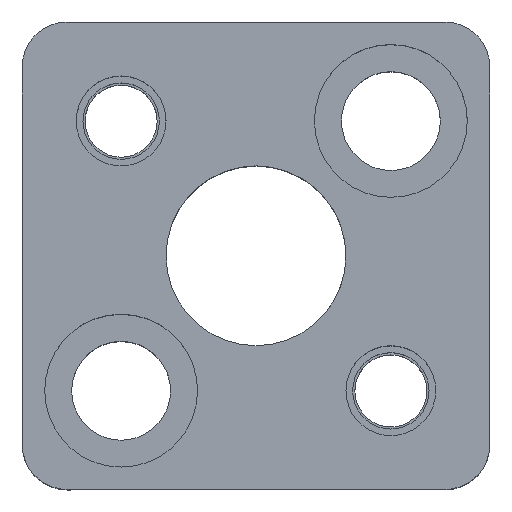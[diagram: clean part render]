
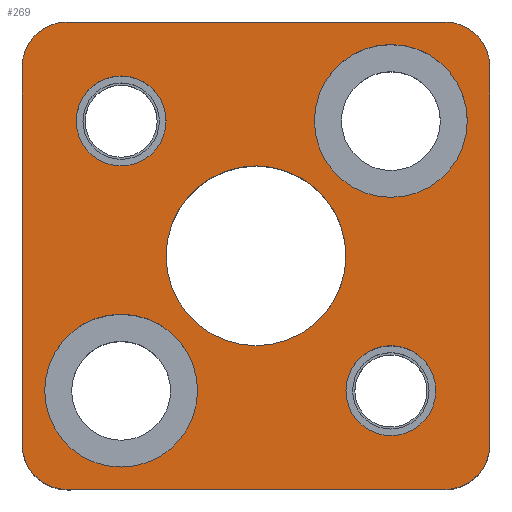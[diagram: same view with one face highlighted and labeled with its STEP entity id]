
A CAD part, top view. The second image highlights one B-rep face of the part: STEP entity #269.
In plain terms, the highlighted planar face has unit normal (0, 0, 1).
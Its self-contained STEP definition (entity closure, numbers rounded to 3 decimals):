
#111=FACE_BOUND('',#400,.T.);
#112=FACE_BOUND('',#401,.T.);
#113=FACE_BOUND('',#402,.T.);
#114=FACE_BOUND('',#403,.T.);
#115=FACE_BOUND('',#404,.T.);
#116=FACE_BOUND('',#405,.T.);
#162=CIRCLE('',#1027,5.);
#164=CIRCLE('',#1031,5.);
#166=CIRCLE('',#1035,5.);
#168=CIRCLE('',#1039,5.);
#181=CIRCLE('',#1065,8.5);
#183=CIRCLE('',#1068,8.5);
#185=CIRCLE('',#1072,8.5);
#187=CIRCLE('',#1075,8.5);
#211=CIRCLE('',#1118,5.);
#212=CIRCLE('',#1119,5.);
#213=CIRCLE('',#1120,5.);
#214=CIRCLE('',#1121,5.);
#215=CIRCLE('',#1122,10.);
#216=CIRCLE('',#1123,10.);
#269=ADVANCED_FACE('',(#111,#112,#113,#114,#115,#116),#297,.T.);
#297=PLANE('',#1124);
#400=EDGE_LOOP('',(#613,#614,#615,#616,#617,#618,#619,#620));
#401=EDGE_LOOP('',(#621,#622));
#402=EDGE_LOOP('',(#623,#624));
#403=EDGE_LOOP('',(#625,#626));
#404=EDGE_LOOP('',(#627,#628));
#405=EDGE_LOOP('',(#629,#630));
#613=ORIENTED_EDGE('',*,*,#785,.T.);
#614=ORIENTED_EDGE('',*,*,#782,.T.);
#615=ORIENTED_EDGE('',*,*,#779,.T.);
#616=ORIENTED_EDGE('',*,*,#776,.T.);
#617=ORIENTED_EDGE('',*,*,#773,.T.);
#618=ORIENTED_EDGE('',*,*,#770,.T.);
#619=ORIENTED_EDGE('',*,*,#791,.T.);
#620=ORIENTED_EDGE('',*,*,#788,.T.);
#621=ORIENTED_EDGE('',*,*,#877,.F.);
#622=ORIENTED_EDGE('',*,*,#878,.F.);
#623=ORIENTED_EDGE('',*,*,#879,.F.);
#624=ORIENTED_EDGE('',*,*,#880,.F.);
#625=ORIENTED_EDGE('',*,*,#830,.F.);
#626=ORIENTED_EDGE('',*,*,#826,.F.);
#627=ORIENTED_EDGE('',*,*,#824,.F.);
#628=ORIENTED_EDGE('',*,*,#820,.F.);
#629=ORIENTED_EDGE('',*,*,#881,.T.);
#630=ORIENTED_EDGE('',*,*,#882,.T.);
#685=VERTEX_POINT('',#1454);
#686=VERTEX_POINT('',#1456);
#688=VERTEX_POINT('',#1462);
#690=VERTEX_POINT('',#1468);
#692=VERTEX_POINT('',#1474);
#694=VERTEX_POINT('',#1480);
#696=VERTEX_POINT('',#1486);
#698=VERTEX_POINT('',#1492);
#715=VERTEX_POINT('',#1567);
#716=VERTEX_POINT('',#1568);
#719=VERTEX_POINT('',#1580);
#720=VERTEX_POINT('',#1581);
#754=VERTEX_POINT('',#1689);
#755=VERTEX_POINT('',#1690);
#756=VERTEX_POINT('',#1693);
#757=VERTEX_POINT('',#1694);
#758=VERTEX_POINT('',#1697);
#759=VERTEX_POINT('',#1698);
#770=EDGE_CURVE('',#686,#685,#902,.T.);
#773=EDGE_CURVE('',#688,#686,#162,.T.);
#776=EDGE_CURVE('',#690,#688,#906,.T.);
#779=EDGE_CURVE('',#692,#690,#164,.T.);
#782=EDGE_CURVE('',#694,#692,#910,.T.);
#785=EDGE_CURVE('',#696,#694,#166,.T.);
#788=EDGE_CURVE('',#698,#696,#914,.T.);
#791=EDGE_CURVE('',#685,#698,#168,.T.);
#820=EDGE_CURVE('',#715,#716,#181,.T.);
#824=EDGE_CURVE('',#716,#715,#183,.T.);
#826=EDGE_CURVE('',#719,#720,#185,.T.);
#830=EDGE_CURVE('',#720,#719,#187,.T.);
#877=EDGE_CURVE('',#754,#755,#211,.T.);
#878=EDGE_CURVE('',#755,#754,#212,.T.);
#879=EDGE_CURVE('',#756,#757,#213,.T.);
#880=EDGE_CURVE('',#757,#756,#214,.T.);
#881=EDGE_CURVE('',#758,#759,#215,.T.);
#882=EDGE_CURVE('',#759,#758,#216,.T.);
#902=LINE('',#1455,#964);
#906=LINE('',#1467,#968);
#910=LINE('',#1479,#972);
#914=LINE('',#1491,#976);
#964=VECTOR('',#1149,1.);
#968=VECTOR('',#1161,1.);
#972=VECTOR('',#1173,1.);
#976=VECTOR('',#1185,1.);
#1027=AXIS2_PLACEMENT_3D('',#1461,#1155,#1156);
#1031=AXIS2_PLACEMENT_3D('',#1473,#1167,#1168);
#1035=AXIS2_PLACEMENT_3D('',#1485,#1179,#1180);
#1039=AXIS2_PLACEMENT_3D('',#1496,#1191,#1192);
#1065=AXIS2_PLACEMENT_3D('',#1566,#1255,#1256);
#1068=AXIS2_PLACEMENT_3D('',#1575,#1263,#1264);
#1072=AXIS2_PLACEMENT_3D('',#1579,#1271,#1272);
#1075=AXIS2_PLACEMENT_3D('',#1588,#1279,#1280);
#1118=AXIS2_PLACEMENT_3D('',#1688,#1387,#1388);
#1119=AXIS2_PLACEMENT_3D('',#1691,#1389,#1390);
#1120=AXIS2_PLACEMENT_3D('',#1692,#1391,#1392);
#1121=AXIS2_PLACEMENT_3D('',#1695,#1393,#1394);
#1122=AXIS2_PLACEMENT_3D('',#1696,#1395,#1396);
#1123=AXIS2_PLACEMENT_3D('',#1699,#1397,#1398);
#1124=AXIS2_PLACEMENT_3D('',#1700,#1399,#1400);
#1149=DIRECTION('',(0.,-1.,0.));
#1155=DIRECTION('',(0.,0.,1.));
#1156=DIRECTION('',(0.707,-0.707,0.));
#1161=DIRECTION('',(-1.,0.,0.));
#1167=DIRECTION('',(0.,0.,1.));
#1168=DIRECTION('',(-0.707,-0.707,0.));
#1173=DIRECTION('',(0.,1.,0.));
#1179=DIRECTION('',(0.,0.,1.));
#1180=DIRECTION('',(-0.707,0.707,0.));
#1185=DIRECTION('',(1.,0.,0.));
#1191=DIRECTION('',(0.,0.,1.));
#1192=DIRECTION('',(0.707,0.707,0.));
#1255=DIRECTION('',(0.,0.,1.));
#1256=DIRECTION('',(-1.,0.,0.));
#1263=DIRECTION('',(0.,0.,1.));
#1264=DIRECTION('',(1.,0.,0.));
#1271=DIRECTION('',(0.,0.,1.));
#1272=DIRECTION('',(-1.,0.,0.));
#1279=DIRECTION('',(0.,0.,1.));
#1280=DIRECTION('',(1.,0.,0.));
#1387=DIRECTION('',(0.,0.,1.));
#1388=DIRECTION('',(1.,0.,0.));
#1389=DIRECTION('',(0.,0.,1.));
#1390=DIRECTION('',(-1.,0.,0.));
#1391=DIRECTION('',(0.,0.,1.));
#1392=DIRECTION('',(1.,0.,0.));
#1393=DIRECTION('',(0.,0.,1.));
#1394=DIRECTION('',(-1.,0.,0.));
#1395=DIRECTION('',(0.,0.,-1.));
#1396=DIRECTION('',(-1.,0.,0.));
#1397=DIRECTION('',(0.,0.,-1.));
#1398=DIRECTION('',(1.,0.,0.));
#1399=DIRECTION('',(0.,0.,1.));
#1400=DIRECTION('',(-1.,0.,0.));
#1454=CARTESIAN_POINT('',(-26.,-21.,30.));
#1455=CARTESIAN_POINT('',(-26.,21.,30.));
#1456=CARTESIAN_POINT('',(-26.,21.,30.));
#1461=CARTESIAN_POINT('',(-21.,21.,30.));
#1462=CARTESIAN_POINT('',(-21.,26.,30.));
#1467=CARTESIAN_POINT('',(-21.,26.,30.));
#1468=CARTESIAN_POINT('',(21.,26.,30.));
#1473=CARTESIAN_POINT('',(21.,21.,30.));
#1474=CARTESIAN_POINT('',(26.,21.,30.));
#1479=CARTESIAN_POINT('',(26.,21.,30.));
#1480=CARTESIAN_POINT('',(26.,-21.,30.));
#1485=CARTESIAN_POINT('',(21.,-21.,30.));
#1486=CARTESIAN_POINT('',(21.,-26.,30.));
#1491=CARTESIAN_POINT('',(-21.,-26.,30.));
#1492=CARTESIAN_POINT('',(-21.,-26.,30.));
#1496=CARTESIAN_POINT('',(-21.,-21.,30.));
#1566=CARTESIAN_POINT('',(-15.,-15.,30.));
#1567=CARTESIAN_POINT('',(-15.,-23.5,30.));
#1568=CARTESIAN_POINT('',(-15.,-6.5,30.));
#1575=CARTESIAN_POINT('',(-15.,-15.,30.));
#1579=CARTESIAN_POINT('',(15.,15.,30.));
#1580=CARTESIAN_POINT('',(15.,6.5,30.));
#1581=CARTESIAN_POINT('',(15.,23.5,30.));
#1588=CARTESIAN_POINT('',(15.,15.,30.));
#1688=CARTESIAN_POINT('',(-15.,15.,30.));
#1689=CARTESIAN_POINT('',(-15.,20.,30.));
#1690=CARTESIAN_POINT('',(-15.,10.,30.));
#1691=CARTESIAN_POINT('',(-15.,15.,30.));
#1692=CARTESIAN_POINT('',(15.,-15.,30.));
#1693=CARTESIAN_POINT('',(15.,-10.,30.));
#1694=CARTESIAN_POINT('',(15.,-20.,30.));
#1695=CARTESIAN_POINT('',(15.,-15.,30.));
#1696=CARTESIAN_POINT('',(0.,0.,30.));
#1697=CARTESIAN_POINT('',(0.,10.,30.));
#1698=CARTESIAN_POINT('',(0.,-10.,30.));
#1699=CARTESIAN_POINT('',(0.,0.,30.));
#1700=CARTESIAN_POINT('',(21.,-26.,30.));
